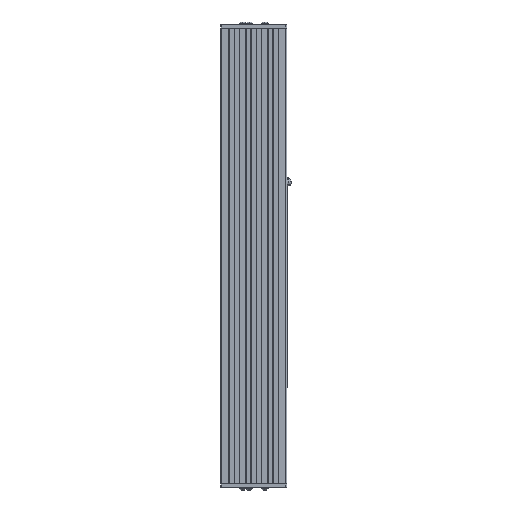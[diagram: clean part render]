
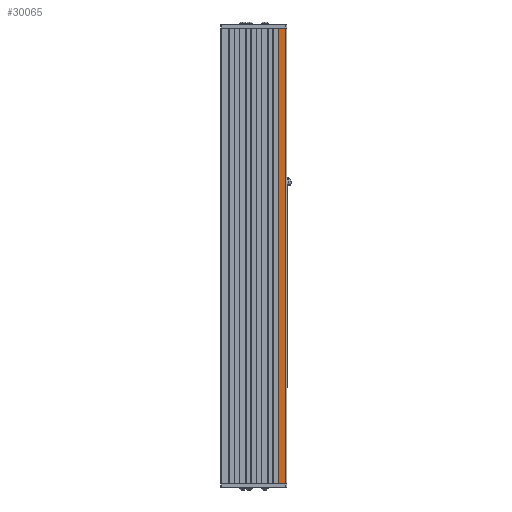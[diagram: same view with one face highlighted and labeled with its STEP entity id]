
A CAD part, front view. The second image highlights one B-rep face of the part: STEP entity #30065.
In plain terms, the highlighted planar face has unit normal (0, -1, 0).
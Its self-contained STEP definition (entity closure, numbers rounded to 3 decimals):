
#6617 = EDGE_LOOP ( 'NONE', ( #14029, #14030, #14031, #14032 ) ) ;
#12266 = EDGE_CURVE ( 'NONE', #37644, #30829, #27675, .T. ) ;
#12414 = EDGE_CURVE ( 'NONE', #30860, #37644, #27957, .T. ) ;
#12415 = EDGE_CURVE ( 'NONE', #30829, #30956, #27959, .T. ) ;
#12649 = EDGE_CURVE ( 'NONE', #30860, #30956, #28378, .T. ) ;
#14029 = ORIENTED_EDGE ( 'NONE', *, *, #12266, .T. ) ;
#14030 = ORIENTED_EDGE ( 'NONE', *, *, #12415, .T. ) ;
#14031 = ORIENTED_EDGE ( 'NONE', *, *, #12649, .F. ) ;
#14032 = ORIENTED_EDGE ( 'NONE', *, *, #12414, .T. ) ;
#17277 = CARTESIAN_POINT ( 'NONE',  ( 52.074, -36.746, 932. ) ) ;
#17278 = DIRECTION ( 'NONE',  ( 0., 0., -1. ) ) ;
#17279 = CARTESIAN_POINT ( 'NONE',  ( 66.574, -36.746, 932. ) ) ;
#17280 = DIRECTION ( 'NONE',  ( 0., 0., 1. ) ) ;
#18093 = CARTESIAN_POINT ( 'NONE',  ( 52.074, -36.746, 932. ) ) ;
#18094 = DIRECTION ( 'NONE',  ( 1., 0., 0. ) ) ;
#22102 = CARTESIAN_POINT ( 'NONE',  ( 66.574, -36.746, 0. ) ) ;
#22133 = CARTESIAN_POINT ( 'NONE',  ( 52.074, -36.746, 932. ) ) ;
#22229 = CARTESIAN_POINT ( 'NONE',  ( 66.574, -36.746, 932. ) ) ;
#23031 = CARTESIAN_POINT ( 'NONE',  ( 52.074, -36.746, 0. ) ) ;
#27675 = LINE ( 'NONE', #31112, #27677 ) ;
#27677 = VECTOR ( 'NONE', #31113, 1000. ) ;
#27957 = LINE ( 'NONE', #17277, #27958 ) ;
#27958 = VECTOR ( 'NONE', #17278, 1000. ) ;
#27959 = LINE ( 'NONE', #17279, #27960 ) ;
#27960 = VECTOR ( 'NONE', #17280, 1000. ) ;
#28378 = LINE ( 'NONE', #18093, #28379 ) ;
#28379 = VECTOR ( 'NONE', #18094, 1000. ) ;
#30065 = ADVANCED_FACE ( 'NONE', ( #36186 ), #37902, .F. ) ;
#30829 = VERTEX_POINT ( 'NONE', #22102 ) ;
#30860 = VERTEX_POINT ( 'NONE', #22133 ) ;
#30956 = VERTEX_POINT ( 'NONE', #22229 ) ;
#31112 = CARTESIAN_POINT ( 'NONE',  ( 52.074, -36.746, 0. ) ) ;
#31113 = DIRECTION ( 'NONE',  ( 1., 0., 0. ) ) ;
#32544 = AXIS2_PLACEMENT_3D ( 'NONE', #37903, #37904, #37905 ) ;
#36186 = FACE_OUTER_BOUND ( 'NONE', #6617, .T. ) ;
#37644 = VERTEX_POINT ( 'NONE', #23031 ) ;
#37902 = PLANE ( 'NONE',  #32544 ) ;
#37903 = CARTESIAN_POINT ( 'NONE',  ( 52.074, -36.746, 932. ) ) ;
#37904 = DIRECTION ( 'NONE',  ( 0., 1., 0. ) ) ;
#37905 = DIRECTION ( 'NONE',  ( 0., 0., 1. ) ) ;
